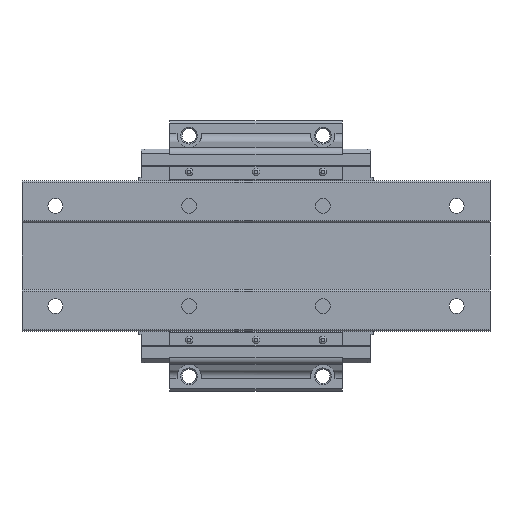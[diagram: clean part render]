
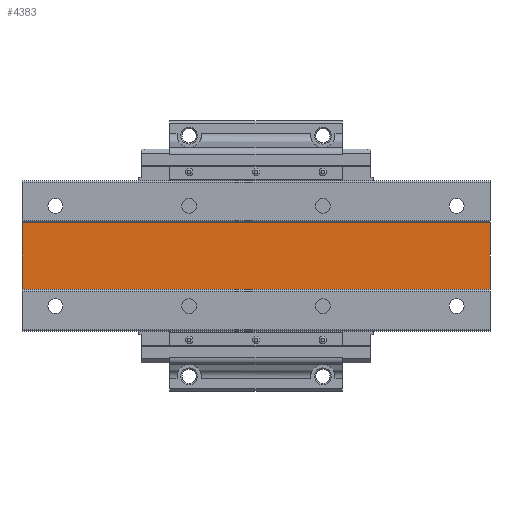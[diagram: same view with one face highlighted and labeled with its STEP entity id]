
A CAD part, front view. The second image highlights one B-rep face of the part: STEP entity #4383.
In plain terms, the highlighted planar face has unit normal (0, -1, 0).
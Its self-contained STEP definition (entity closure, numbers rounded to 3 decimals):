
#341=ORIENTED_EDGE('',*,*,#1562,.T.);
#342=ORIENTED_EDGE('',*,*,#1563,.F.);
#343=ORIENTED_EDGE('',*,*,#1564,.F.);
#344=ORIENTED_EDGE('',*,*,#1560,.T.);
#1560=EDGE_CURVE('',#2167,#2166,#2609,.T.);
#1562=EDGE_CURVE('',#2166,#2168,#2611,.T.);
#1563=EDGE_CURVE('',#2169,#2168,#2612,.T.);
#1564=EDGE_CURVE('',#2167,#2169,#2613,.T.);
#2166=VERTEX_POINT('',#6397);
#2167=VERTEX_POINT('',#6399);
#2168=VERTEX_POINT('',#6403);
#2169=VERTEX_POINT('',#6405);
#2609=LINE('',#6398,#3047);
#2611=LINE('',#6402,#3049);
#2612=LINE('',#6404,#3050);
#2613=LINE('',#6406,#3051);
#3047=VECTOR('',#5138,1000.);
#3049=VECTOR('',#5142,1000.);
#3050=VECTOR('',#5143,1000.);
#3051=VECTOR('',#5144,1000.);
#3472=EDGE_LOOP('',(#341,#342,#343,#344));
#3839=FACE_BOUND('',#3472,.T.);
#4203=PLANE('',#4687);
#4383=ADVANCED_FACE('',(#3839),#4203,.F.);
#4687=AXIS2_PLACEMENT_3D('',#6401,#5140,#5141);
#5138=DIRECTION('',(-1.,0.,0.));
#5140=DIRECTION('',(0.,1.,0.));
#5141=DIRECTION('',(0.,0.,1.));
#5142=DIRECTION('',(0.,0.,-1.));
#5143=DIRECTION('',(-1.,0.,0.));
#5144=DIRECTION('',(0.,0.,-1.));
#6397=CARTESIAN_POINT('',(-20.,1.,20.));
#6398=CARTESIAN_POINT('',(260.,1.,20.));
#6399=CARTESIAN_POINT('',(260.,1.,20.));
#6401=CARTESIAN_POINT('',(260.,1.,20.));
#6402=CARTESIAN_POINT('',(-20.,1.,20.));
#6403=CARTESIAN_POINT('',(-20.,1.,-20.));
#6404=CARTESIAN_POINT('',(260.,1.,-20.));
#6405=CARTESIAN_POINT('',(260.,1.,-20.));
#6406=CARTESIAN_POINT('',(260.,1.,20.));
